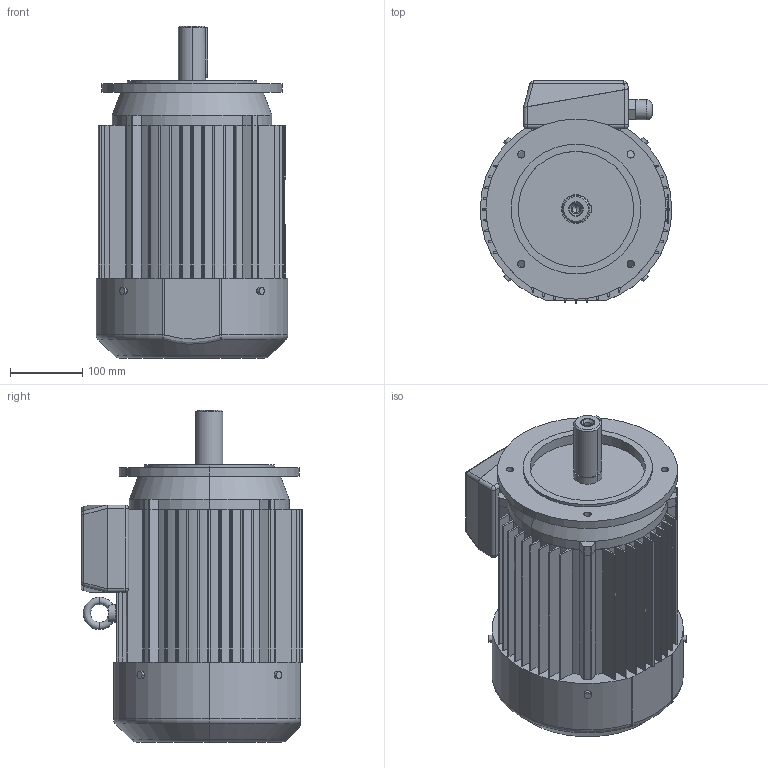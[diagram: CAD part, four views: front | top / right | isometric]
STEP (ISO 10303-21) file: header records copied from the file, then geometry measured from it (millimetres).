
FILE_DESCRIPTION (( 'STEP AP203' ), '1' );
FILE_NAME ('2SIEK132S2A,6-B14-C1.STEP', '2013-01-07T13:22:31', ( 'INDUKTA' ), ( 'CANTONI MOTOR' ), 'SwSTEP 2.0', 'SolidWorks 2003064', '' );
FILE_SCHEMA (( 'CONFIG_CONTROL_DESIGN' ));
Length unit declared in the file: millimetre
Products named in the file (1): 2SIEK132S2A,6-B14-C1
Bounding box: 266 x 307.99 x 461 mm (x, y, z)
Volume: 17974868.7 mm3; surface area: 959042.8 mm2
Topology: 12 solids, 12 shells, 390 faces, 1034 edges, 655 vertices
Faces by surface type: cylinder 186, plane 166, cone 14, torus 13, sphere 10, bspline 1
Entity records: 12894 total; most frequent: CARTESIAN_POINT 2934, DIRECTION 2170, ORIENTED_EDGE 2044, EDGE_CURVE 1022, AXIS2_PLACEMENT_3D 795, VERTEX_POINT 655, VECTOR 580, LINE 580
